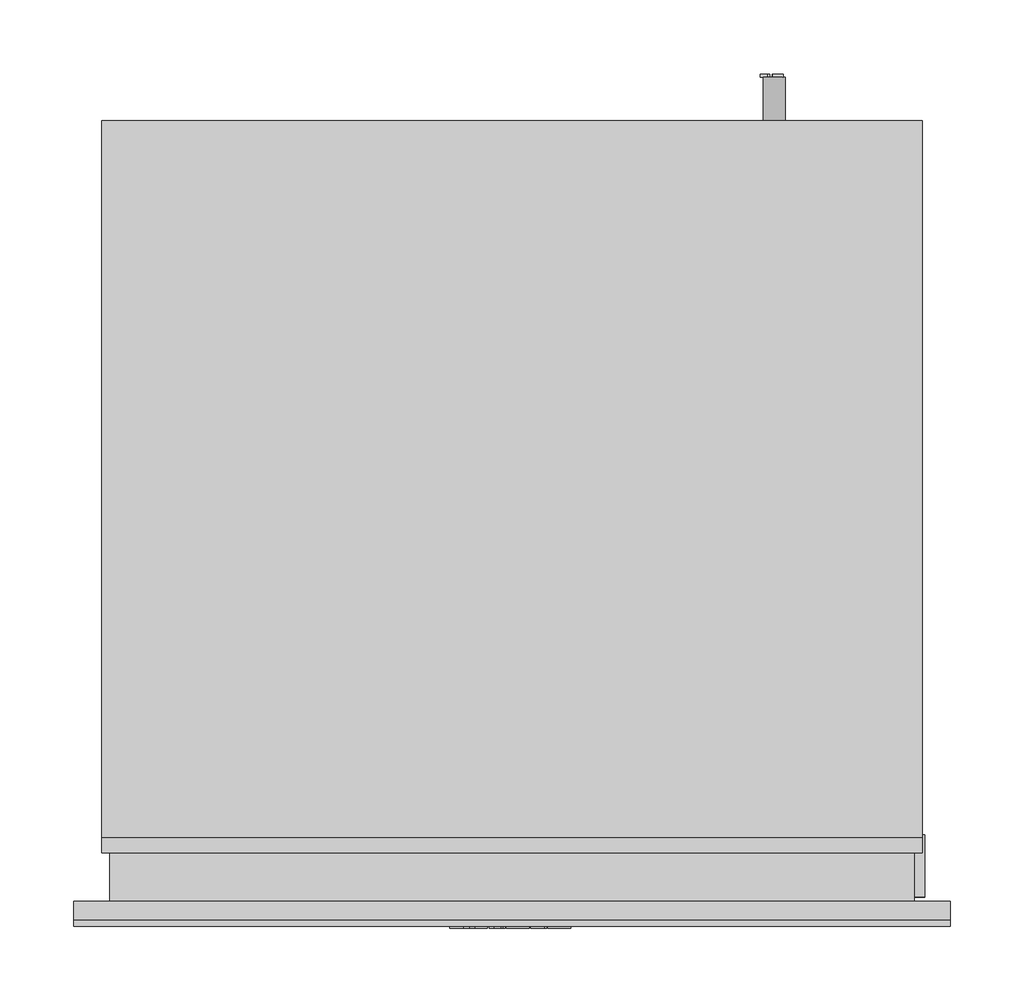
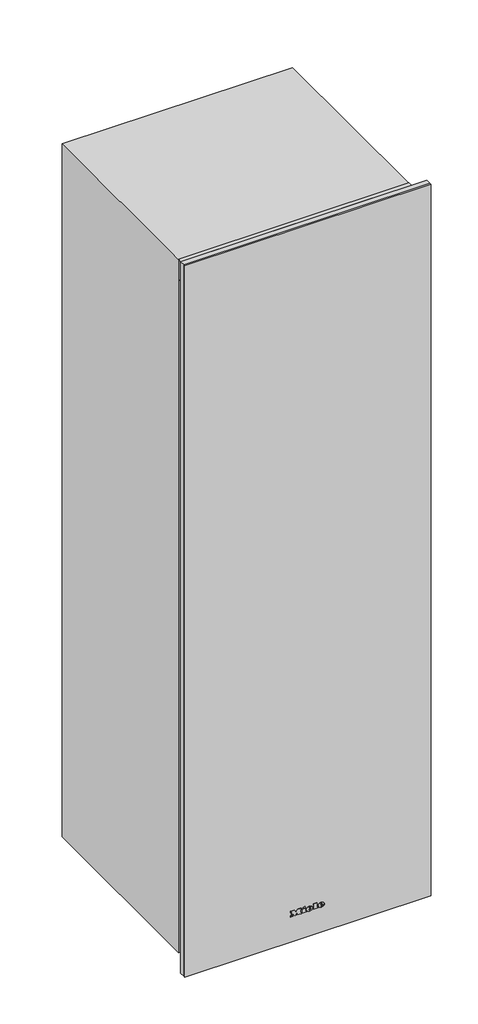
# Not in any storey: 1 proxy.
"""IFC4 building model written with IfcOpenShell, lengths in millimetres."""

from ifc_helpers import new_model, si_unit, origin, place, context, project, spatial, transform, mapped, element, save
from components import specialty_equipment_56acea35

model = new_model("IFC4")

# Units and contexts
model_context = context("Model", 3, world=origin())
ifc_project = project(units=[si_unit("LENGTHUNIT", "METRE", prefix="MILLI")], contexts=[model_context])

# Site, building
site = spatial("IfcSite", under=ifc_project)
building = spatial("IfcBuilding", under=site)

# Proxy
placement = place(None, origin())
specialty_equipment_shape = specialty_equipment_56acea35(model_context)
element("IfcBuildingElementProxy", 1, Name="96242567_AT_KWT6722iGS : 96242567_AT_96242567_KWT6722iGS", ObjectType="96242567_AT_KWT6722iGS : 96242567_AT_96242567_KWT6722iGS", at=placement, inside=building, context=model_context, shape_type="MappedRepresentation", body=[
    mapped(specialty_equipment_shape, transform((0.0, 0.0, 0.0), x_axis=(1.0, 0.0, 0.0), y_axis=(0.0, 1.0, 0.0), z_axis=(0.0, 0.0, 1.0))),
])

save(model, "model.ifc")
